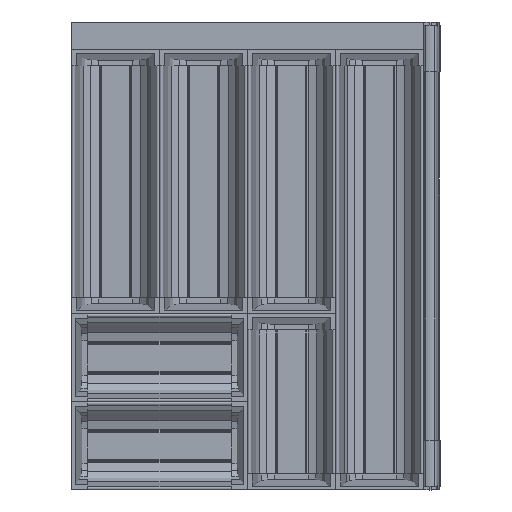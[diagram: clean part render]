
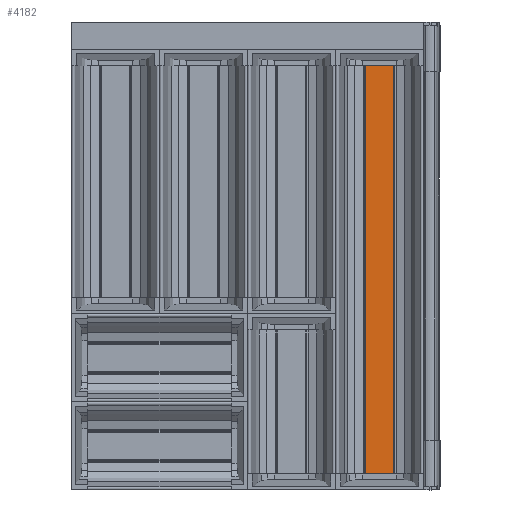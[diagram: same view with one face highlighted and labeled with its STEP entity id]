
A CAD part, top view. The second image highlights one B-rep face of the part: STEP entity #4182.
In plain terms, the highlighted planar face has unit normal (0, 0, 1).
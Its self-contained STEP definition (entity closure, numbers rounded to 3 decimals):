
#2973 = FACE_OUTER_BOUND ( 'NONE', #30310, .T. ) ;
#4182 = ADVANCED_FACE ( 'NONE', ( #2973 ), #37743, .F. ) ;
#11418 = LINE ( 'NONE', #15414, #11420 ) ;
#11420 = VECTOR ( 'NONE', #15415, 1000. ) ;
#11432 = LINE ( 'NONE', #15430, #11434 ) ;
#11434 = VECTOR ( 'NONE', #15432, 1000. ) ;
#11446 = LINE ( 'NONE', #15446, #11448 ) ;
#11448 = VECTOR ( 'NONE', #15447, 1000. ) ;
#11454 = LINE ( 'NONE', #15454, #11455 ) ;
#11455 = VECTOR ( 'NONE', #15456, 1000. ) ;
#12043 = EDGE_CURVE ( 'NONE', #20433, #20440, #11418, .T. ) ;
#12050 = EDGE_CURVE ( 'NONE', #20440, #20441, #11432, .T. ) ;
#12056 = EDGE_CURVE ( 'NONE', #20441, #20439, #11446, .T. ) ;
#12059 = EDGE_CURVE ( 'NONE', #20433, #20439, #11454, .T. ) ;
#15414 = CARTESIAN_POINT ( 'NONE',  ( 330.75, 436., 5.6 ) ) ;
#15415 = DIRECTION ( 'NONE',  ( 1., 0., 0. ) ) ;
#15430 = CARTESIAN_POINT ( 'NONE',  ( 330.75, 441.5, 5.6 ) ) ;
#15432 = DIRECTION ( 'NONE',  ( 0., -1., 0. ) ) ;
#15446 = CARTESIAN_POINT ( 'NONE',  ( 330.75, 16.5, 5.6 ) ) ;
#15447 = DIRECTION ( 'NONE',  ( -1., 0., 0. ) ) ;
#15454 = CARTESIAN_POINT ( 'NONE',  ( 302.75, 441.5, 5.6 ) ) ;
#15456 = DIRECTION ( 'NONE',  ( 0., -1., 0. ) ) ;
#16774 = CARTESIAN_POINT ( 'NONE',  ( 302.75, 436., 5.6 ) ) ;
#16790 = CARTESIAN_POINT ( 'NONE',  ( 302.75, 16.5, 5.6 ) ) ;
#16793 = CARTESIAN_POINT ( 'NONE',  ( 330.75, 436., 5.6 ) ) ;
#16795 = CARTESIAN_POINT ( 'NONE',  ( 330.75, 16.5, 5.6 ) ) ;
#20433 = VERTEX_POINT ( 'NONE', #16774 ) ;
#20439 = VERTEX_POINT ( 'NONE', #16790 ) ;
#20440 = VERTEX_POINT ( 'NONE', #16793 ) ;
#20441 = VERTEX_POINT ( 'NONE', #16795 ) ;
#26148 = ORIENTED_EDGE ( 'NONE', *, *, #12050, .F. ) ;
#26150 = ORIENTED_EDGE ( 'NONE', *, *, #12056, .F. ) ;
#26152 = ORIENTED_EDGE ( 'NONE', *, *, #12059, .T. ) ;
#26153 = ORIENTED_EDGE ( 'NONE', *, *, #12043, .F. ) ;
#28091 = AXIS2_PLACEMENT_3D ( 'NONE', #37746, #37688, #37724 ) ;
#30310 = EDGE_LOOP ( 'NONE', ( #26153, #26152, #26150, #26148 ) ) ;
#37688 = DIRECTION ( 'NONE',  ( 0., 0., -1. ) ) ;
#37724 = DIRECTION ( 'NONE',  ( 0., -1., 0. ) ) ;
#37743 = PLANE ( 'NONE',  #28091 ) ;
#37746 = CARTESIAN_POINT ( 'NONE',  ( 330.75, 441.5, 5.6 ) ) ;
